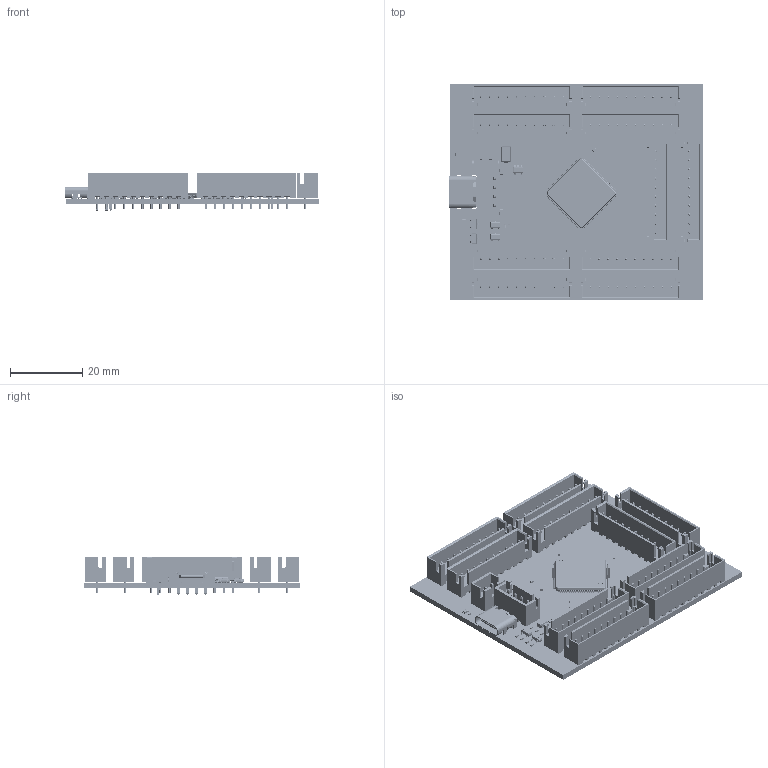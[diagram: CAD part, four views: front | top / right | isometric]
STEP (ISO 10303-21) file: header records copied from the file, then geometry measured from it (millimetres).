
FILE_DESCRIPTION(('Designed by EasyEDA Pro'),'2;1');
FILE_NAME('Open CASCADE Shape Model','2024-06-11T20:51:16',('Author'),( 'Open CASCADE'),'Open CASCADE STEP processor 7.8','Open CASCADE 7.8' ,'Unknown');
FILE_SCHEMA(('AUTOMOTIVE_DESIGN { 1 0 10303 214 1 1 1 1 }'));
Length unit declared in the file: millimetre
Products named in the file (76): PCBModel; Board; LeUj-U4; F0805; SOLID; LeUj-R3; R0402; LeUj-R1; LeUj-R9; LeUj-R22; LeUj-R23; LeUj-R24; LeUj-R25; LeUj-R26; LeUj-R27; LeUj-R28; LeUj-R29; LeUj-R2; LeUj-R6; LeUj-D2; SMA_L4.3-W2.6-LS5.2-RD; COMPOUND; LeUj-C17; C0402; LeUj-C3; LeUj-C4; LeUj-C6; LeUj-C7; LeUj-C18; LeUj-C19; LeUj-C20; LeUj-C21; LeUj-C22; LeUj-C23; LeUj-C24; LeUj-C1; LeUj-Q3; SOT-23-3_L3.0-W1.7-P0.95-LS2.9-BR; LeUj-Q1; LeUj-U1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
Assembly tree (110 placements, depth 4):
  PCBModel
    Board
    LeUj-U4
      F0805
        SOLID
    LeUj-R3
      R0402
        SOLID
    LeUj-R1
      R0402
        SOLID
    LeUj-R9
      R0402
        SOLID
    LeUj-R22
      R0402
        SOLID
    LeUj-R23
      R0402
        SOLID
    LeUj-R24
      R0402
        SOLID
    LeUj-R25
      R0402
        SOLID
    LeUj-R26
      R0402
        SOLID
    LeUj-R27
      R0402
        SOLID
    LeUj-R28
      R0402
        SOLID
    LeUj-R29
      R0402
        SOLID
    LeUj-R2
      R0402
        SOLID
    LeUj-R6
      R0402
        SOLID
    LeUj-D2
      SMA_L4.3-W2.6-LS5.2-RD
        COMPOUND
    LeUj-C17
      C0402
        SOLID
    LeUj-C3
      C0402
        SOLID
    LeUj-C4
      C0402
        SOLID
    LeUj-C6
      C0402
        SOLID
    LeUj-C7
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Bounding box: 70.03 x 59.97 x 10.6 mm (x, y, z)
Volume: 12305.9 mm3; surface area: 23796 mm2
Topology: 285 solids, 285 shells, 20339 faces, 53628 edges, 34637 vertices
Faces by surface type: plane 11518, bspline 5337, cylinder 2653, cone 408, sphere 335, torus 88
Full cylindrical faces by diameter (mm): 0.7 x2, 1 x2, 1.1 x4, 1.2 x100
Entity records: 297814 total; most frequent: CARTESIAN_POINT 71835, ORIENTED_EDGE 37064, DIRECTION 28408, EDGE_CURVE 18532, LINE 12990, VECTOR 12990, VERTEX_POINT 11966, AXIS2_PLACEMENT_3D 7709
